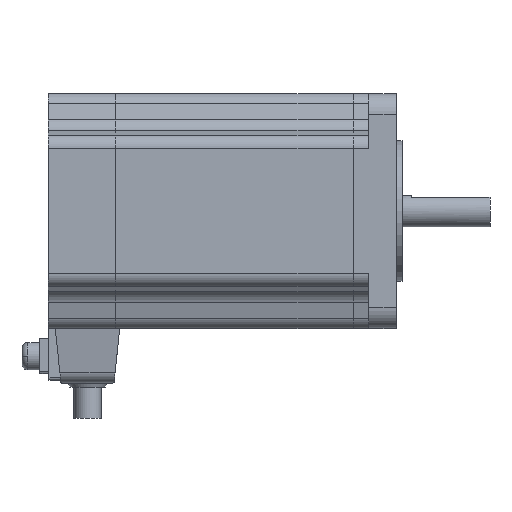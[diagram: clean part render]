
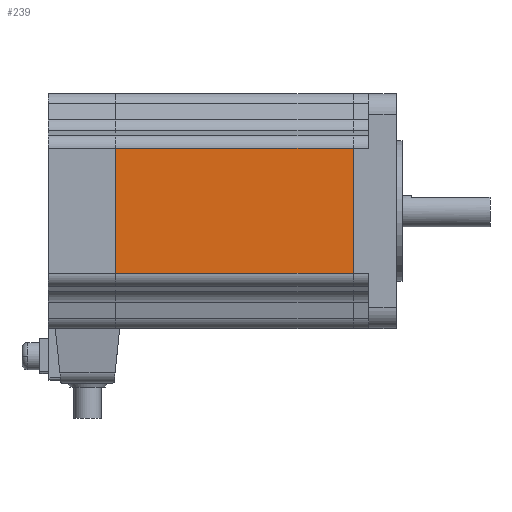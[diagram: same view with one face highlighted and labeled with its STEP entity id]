
A CAD part, top view. The second image highlights one B-rep face of the part: STEP entity #239.
In plain terms, the highlighted planar face has unit normal (0, 0, 1).
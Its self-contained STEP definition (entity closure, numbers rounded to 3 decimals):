
#239 = ADVANCED_FACE( '', ( #611 ), #612, .T. );
#611 = FACE_OUTER_BOUND( '', #1024, .T. );
#612 = PLANE( '', #1025 );
#1024 = EDGE_LOOP( '', ( #2499, #2500, #2501, #2502 ) );
#1025 = AXIS2_PLACEMENT_3D( '', #2503, #2504, #2505 );
#2499 = ORIENTED_EDGE( '', *, *, #3068, .T. );
#2500 = ORIENTED_EDGE( '', *, *, #3297, .T. );
#2501 = ORIENTED_EDGE( '', *, *, #3267, .T. );
#2502 = ORIENTED_EDGE( '', *, *, #3294, .F. );
#2503 = CARTESIAN_POINT( '', ( 0., 24.7, 30. ) );
#2504 = DIRECTION( '', ( 0., 0., 1. ) );
#2505 = DIRECTION( '', ( 0., 1., 0. ) );
#3068 = EDGE_CURVE( '', #3809, #3807, #3810, .T. );
#3267 = EDGE_CURVE( '', #4147, #4145, #4148, .T. );
#3294 = EDGE_CURVE( '', #3809, #4145, #4189, .T. );
#3297 = EDGE_CURVE( '', #3807, #4147, #4193, .T. );
#3807 = VERTEX_POINT( '', #4939 );
#3809 = VERTEX_POINT( '', #4941 );
#3810 = LINE( '', #4942, #4943 );
#4145 = VERTEX_POINT( '', #5403 );
#4147 = VERTEX_POINT( '', #5405 );
#4148 = LINE( '', #5406, #5407 );
#4189 = LINE( '', #5469, #5470 );
#4193 = LINE( '', #5475, #5476 );
#4939 = CARTESIAN_POINT( '', ( -71.79, -16., 30. ) );
#4941 = CARTESIAN_POINT( '', ( -71.79, 16., 30. ) );
#4942 = CARTESIAN_POINT( '', ( -71.79, 12.35, 30. ) );
#4943 = VECTOR( '', #6051, 1. );
#5403 = CARTESIAN_POINT( '', ( -11., 16., 30. ) );
#5405 = CARTESIAN_POINT( '', ( -11., -16., 30. ) );
#5406 = CARTESIAN_POINT( '', ( -11., 12.35, 30. ) );
#5407 = VECTOR( '', #6396, 1. );
#5469 = CARTESIAN_POINT( '', ( -48., 16., 30. ) );
#5470 = VECTOR( '', #6433, 1. );
#5475 = CARTESIAN_POINT( '', ( -48., -16., 30. ) );
#5476 = VECTOR( '', #6438, 1. );
#6051 = DIRECTION( '', ( 0., -1., 0. ) );
#6396 = DIRECTION( '', ( 0., 1., 0. ) );
#6433 = DIRECTION( '', ( 1., 0., 0. ) );
#6438 = DIRECTION( '', ( 1., 0., 0. ) );
